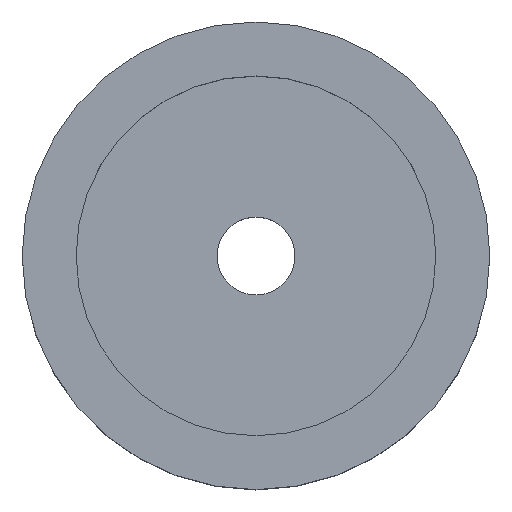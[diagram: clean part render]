
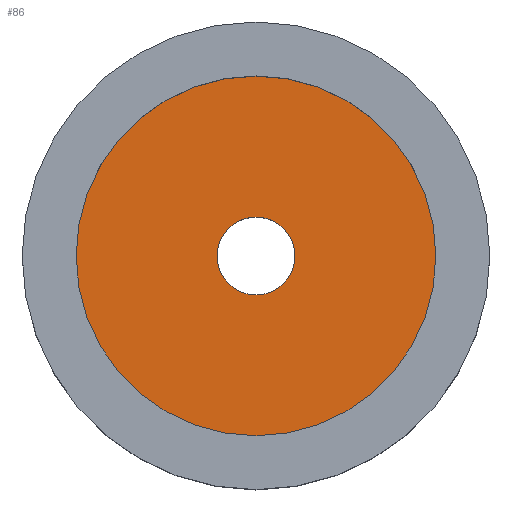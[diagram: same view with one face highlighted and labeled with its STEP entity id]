
A CAD part, top view. The second image highlights one B-rep face of the part: STEP entity #86.
In plain terms, the highlighted planar face has unit normal (0, 0, 1).
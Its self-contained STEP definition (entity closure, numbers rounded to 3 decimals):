
#15 = AXIS2_PLACEMENT_3D ( 'NONE', #158, #133, #117 ) ;
#19 = DIRECTION ( 'NONE',  ( 1., 0., 0. ) ) ;
#20 = PLANE ( 'NONE',  #111 ) ;
#25 = VERTEX_POINT ( 'NONE', #81 ) ;
#31 = VERTEX_POINT ( 'NONE', #166 ) ;
#37 = EDGE_CURVE ( 'NONE', #31, #25, #84, .T. ) ;
#41 = FACE_OUTER_BOUND ( 'NONE', #161, .T. ) ;
#61 = CIRCLE ( 'NONE', #15, 3.25 ) ;
#65 = DIRECTION ( 'NONE',  ( 0., 0., 1. ) ) ;
#67 = DIRECTION ( 'NONE',  ( 0., 0., 1. ) ) ;
#81 = CARTESIAN_POINT ( 'NONE',  ( 3.25, 0., 7. ) ) ;
#84 = CIRCLE ( 'NONE', #123, 3.25 ) ;
#86 = ADVANCED_FACE ( 'NONE', ( #214, #41 ), #20, .T. ) ;
#109 = CARTESIAN_POINT ( 'NONE',  ( 0., 0., 7. ) ) ;
#111 = AXIS2_PLACEMENT_3D ( 'NONE', #152, #65, #268 ) ;
#112 = EDGE_CURVE ( 'NONE', #278, #147, #272, .T. ) ;
#117 = DIRECTION ( 'NONE',  ( 1., 0., 0. ) ) ;
#119 = EDGE_LOOP ( 'NONE', ( #181, #227 ) ) ;
#123 = AXIS2_PLACEMENT_3D ( 'NONE', #242, #67, #19 ) ;
#133 = DIRECTION ( 'NONE',  ( 0., 0., 1. ) ) ;
#137 = AXIS2_PLACEMENT_3D ( 'NONE', #109, #236, #153 ) ;
#142 = EDGE_CURVE ( 'NONE', #147, #278, #185, .T. ) ;
#147 = VERTEX_POINT ( 'NONE', #244 ) ;
#152 = CARTESIAN_POINT ( 'NONE',  ( 0., 0., 7. ) ) ;
#153 = DIRECTION ( 'NONE',  ( 1., 0., 0. ) ) ;
#158 = CARTESIAN_POINT ( 'NONE',  ( 0., 0., 7. ) ) ;
#161 = EDGE_LOOP ( 'NONE', ( #280, #283 ) ) ;
#166 = CARTESIAN_POINT ( 'NONE',  ( -3.25, 0., 7. ) ) ;
#167 = EDGE_CURVE ( 'NONE', #25, #31, #61, .T. ) ;
#174 = DIRECTION ( 'NONE',  ( 1., 0., 0. ) ) ;
#181 = ORIENTED_EDGE ( 'NONE', *, *, #167, .F. ) ;
#185 = CIRCLE ( 'NONE', #267, 15. ) ;
#195 = DIRECTION ( 'NONE',  ( 0., 0., 1. ) ) ;
#214 = FACE_BOUND ( 'NONE', #119, .T. ) ;
#227 = ORIENTED_EDGE ( 'NONE', *, *, #37, .F. ) ;
#236 = DIRECTION ( 'NONE',  ( 0., 0., 1. ) ) ;
#242 = CARTESIAN_POINT ( 'NONE',  ( 0., 0., 7. ) ) ;
#244 = CARTESIAN_POINT ( 'NONE',  ( 15., 0., 7. ) ) ;
#247 = CARTESIAN_POINT ( 'NONE',  ( -15., 0., 7. ) ) ;
#265 = CARTESIAN_POINT ( 'NONE',  ( 0., 0., 7. ) ) ;
#267 = AXIS2_PLACEMENT_3D ( 'NONE', #265, #195, #174 ) ;
#268 = DIRECTION ( 'NONE',  ( 1., 0., 0. ) ) ;
#272 = CIRCLE ( 'NONE', #137, 15. ) ;
#278 = VERTEX_POINT ( 'NONE', #247 ) ;
#280 = ORIENTED_EDGE ( 'NONE', *, *, #142, .T. ) ;
#283 = ORIENTED_EDGE ( 'NONE', *, *, #112, .T. ) ;
